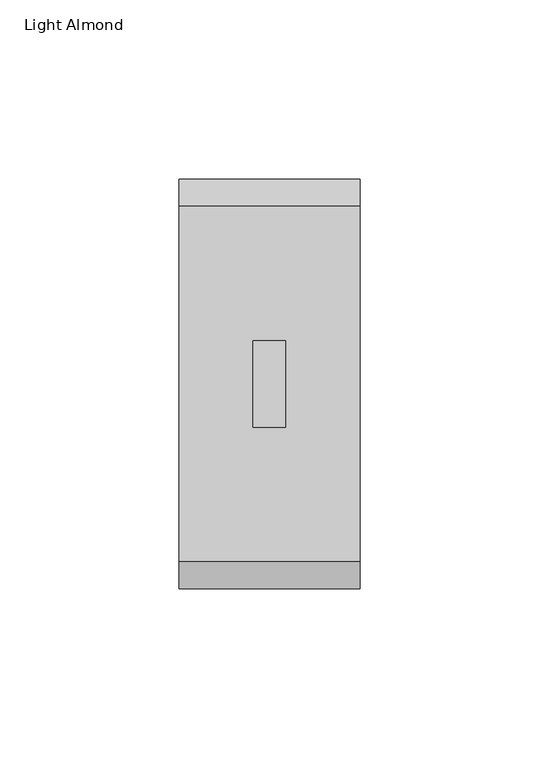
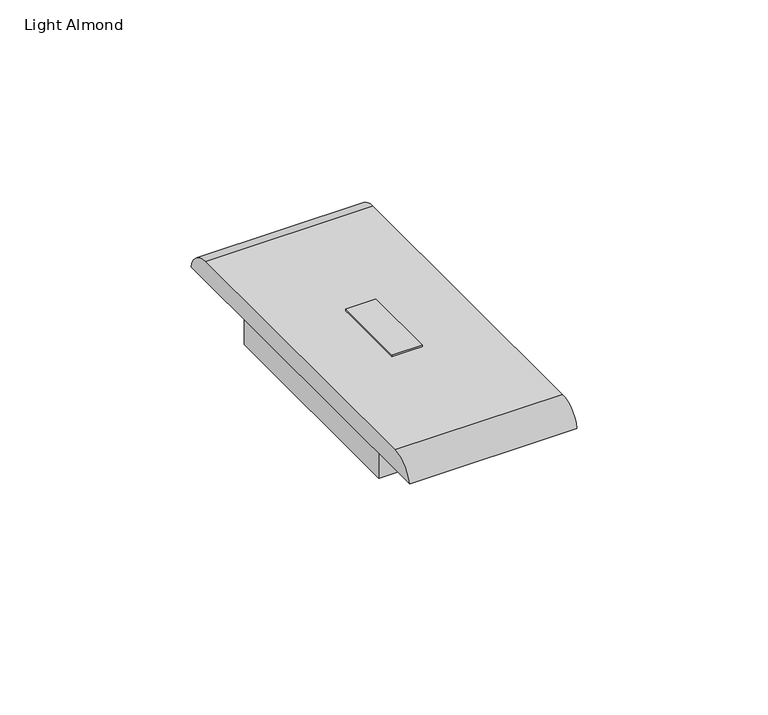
"""IFC4 building model written with IfcOpenShell, lengths in millimetres: proxy geometry, Switch-Wall-Pass_And_Seymour-Toggle : Light Almond."""

from ifc_helpers import new_model, si_unit, frame, origin, origin_with_axes, place, context, project, spatial, polyline, circle_curve, outline, extrude, source, transform, mapped, element, save
from ifc_brep_helpers import plane_surface, cylinder_surface, advanced_brep


def light_almond_af45ca08(model_context):
    return source(origin(), model_context, "Body", "SolidModel", [
        extrude(outline(polyline([(4.572, 12.065), (4.572, -12.065), (-4.572, -12.065), (-4.572, 12.065), (4.572, 12.065)])), origin_with_axes(), (0.0, 0.0, 1.0), 6.604),
        advanced_brep(
        [(-25.2222, 49.53, 6.35), (-25.2222, -49.53, 6.35), (25.2984, -49.53, 6.35), (25.2984, 49.53, 6.35), (4.572, 12.065, 6.35), (4.572, -12.065, 6.35), (-4.572, -12.065, 6.35), (-4.572, 12.065, 6.35), (25.2984, 57.15, 0.0), (25.2984, -57.15, 0.0), (-25.2222, -57.15, 0.0), (-25.2222, 57.15, 0.0), (4.572, -12.065, 0.254), (4.572, 12.065, 0.254), (-4.572, 12.065, 0.254), (-4.572, -12.065, 0.254)],
        [
            (0, 1),
            (1, 2),
            (2, 3),
            (3, 0),
            (4, 5),
            (5, 6),
            (6, 7),
            (7, 4),
            (8, 9),
            (9, 10),
            (10, 11),
            (11, 8),
            (12, 13),
            (13, 14),
            (14, 15),
            (15, 12),
            (12, 5),
            (4, 13),
            (7, 14),
            (6, 15),
            (1, 10, circle_curve(frame((-25.2222, -49.53, -1.397), z_axis=(1.0, 0.0, 0.0), x_axis=(0.0, -1.0, 0.0)), 7.747)),
            (9, 2, circle_curve(frame((25.2984, -49.53, -1.397), z_axis=(-1.0, 0.0, 0.0), x_axis=(0.0, -1.0, 0.0)), 7.747)),
            (3, 8, circle_curve(frame((25.2984, 49.53, -1.397), z_axis=(-1.0, 0.0, 0.0), x_axis=(0.0, 1.0, 0.0)), 7.747)),
            (11, 0, circle_curve(frame((-25.2222, 49.53, -1.397), z_axis=(1.0, 0.0, 0.0), x_axis=(0.0, 1.0, 0.0)), 7.747)),
        ],
        [
            plane_surface(frame((-34.925, 57.15, 6.35), z_axis=(0.0, 0.0, 1.0), x_axis=(-1.0, 0.0, 0.0))),
            plane_surface(frame((-34.925, 57.15, 0.0), z_axis=(0.0, 0.0, -1.0), x_axis=(1.0, 0.0, 0.0))),
            plane_surface(frame((4.572, -12.065, 0.254), z_axis=(0.0, 0.0, 1.0), x_axis=(-1.0, 0.0, 0.0))),
            plane_surface(frame((4.572, 12.065, 0.254), z_axis=(-1.0, 0.0, 0.0), x_axis=(0.0, 0.0, 1.0))),
            plane_surface(frame((-4.572, 12.065, 0.254), z_axis=(0.0, -1.0, 0.0), x_axis=(0.0, 0.0, 1.0))),
            plane_surface(frame((-4.572, -12.065, 0.254), z_axis=(1.0, 0.0, 0.0), x_axis=(0.0, 0.0, 1.0))),
            plane_surface(frame((4.572, -12.065, 0.254), z_axis=(0.0, 1.0, 0.0), x_axis=(0.0, 0.0, 1.0))),
            cylinder_surface(frame((34.925, -49.53, -1.397), z_axis=(-1.0, 0.0, 0.0), x_axis=(0.0, -1.0, 0.0)), 7.747),
            cylinder_surface(frame((-34.925, 49.53, -1.397), z_axis=(1.0, 0.0, 0.0), x_axis=(0.0, 1.0, 0.0)), 7.747),
            plane_surface(frame((25.2984, 60.2234, 6.35), z_axis=(1.0, 0.0, 0.0), x_axis=(0.0, 0.0, -1.0))),
            plane_surface(frame((-25.2222, -60.1472, 6.35), z_axis=(-1.0, 0.0, 0.0), x_axis=(0.0, 0.0, -1.0))),
        ],
        [
            (0, [[1, 2, 3, 4], [5, 6, 7, 8]]),
            (1, [[9, 10, 11, 12]]),
            (2, [[13, 14, 15, 16]]),
            (3, [[-13, 17, -5, 18]]),
            (4, [[-14, -18, -8, 19]]),
            (5, [[-15, -19, -7, 20]]),
            (6, [[-16, -20, -6, -17]]),
            (7, [[-2, 21, -10, 22]]),
            (8, [[-4, 23, -12, 24]]),
            (9, [[-9, -23, -3, -22]]),
            (10, [[-11, -21, -1, -24]]),
        ],
    ),
        extrude(outline(polyline([(21.844, 35.179), (21.844, -35.179), (-21.844, -35.179), (-21.844, 35.179), (21.844, 35.179)])), frame((0.0, 0.0, -12.7), z_axis=(0.0, 0.0, 1.0), x_axis=(1.0, 0.0, 0.0)), (0.0, 0.0, 1.0), 12.7),
    ])


if __name__ == "__main__":
    model = new_model("IFC4")
    model_context = context("Model", 3, world=origin())
    ifc_project = project(units=[si_unit("LENGTHUNIT", "METRE", prefix="MILLI")], contexts=[model_context])
    site = spatial("IfcSite", under=ifc_project)
    building = spatial("IfcBuilding", under=site)
    placement = place(None, origin())
    light_almond_shape = light_almond_af45ca08(model_context)
    element("IfcBuildingElementProxy", 1, Name="Switch-Wall-Pass_And_Seymour-Toggle : Light Almond", ObjectType="Switch-Wall-Pass_And_Seymour-Toggle : Light Almond", at=placement, inside=building, context=model_context, shape_type="MappedRepresentation", body=[
        mapped(light_almond_shape, transform((0.0, 0.0, 0.0), x_axis=(1.0, 0.0, 0.0), y_axis=(0.0, 1.0, 0.0), z_axis=(0.0, 0.0, 1.0))),
    ])
    save(model, "model.ifc")
